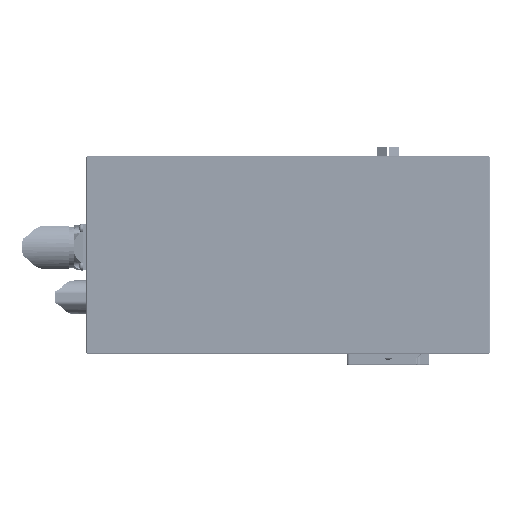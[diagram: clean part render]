
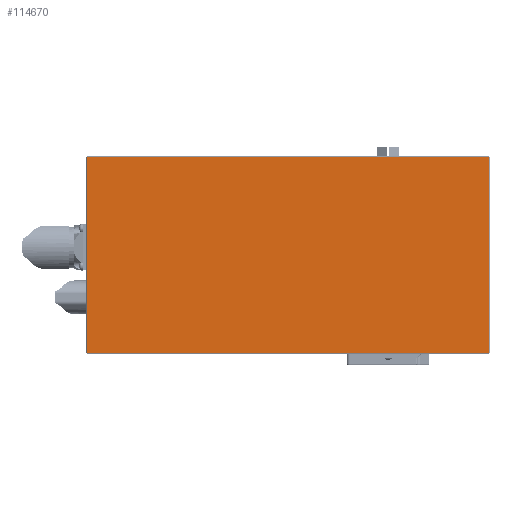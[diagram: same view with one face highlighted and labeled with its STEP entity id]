
A CAD part, top view. The second image highlights one B-rep face of the part: STEP entity #114670.
In plain terms, the highlighted planar face has unit normal (0, 0, 1).
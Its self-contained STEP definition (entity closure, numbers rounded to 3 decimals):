
#114631=CARTESIAN_POINT('',(-60.4,62.5,568.));
#114632=DIRECTION('',(0.,1.,0.));
#114633=DIRECTION('',(0.,-0.,1.));
#114634=AXIS2_PLACEMENT_3D('',#114631,#114633,#114632);
#114635=PLANE('',#114634);
#114636=CARTESIAN_POINT('',(-181.9,-59.,568.));
#114637=VERTEX_POINT('',#114636);
#114638=CARTESIAN_POINT('',(61.1,-59.,568.));
#114639=VERTEX_POINT('',#114638);
#114640=CARTESIAN_POINT('',(-181.9,-59.,568.));
#114641=DIRECTION('',(1.,0.,0.));
#114642=VECTOR('',#114641,243.);
#114643=LINE('',#114640,#114642);
#114644=EDGE_CURVE('',#114637,#114639,#114643,.T.);
#114645=ORIENTED_EDGE('E9215',*,*,#114644,.T.);
#114646=CARTESIAN_POINT('',(61.1,59.,568.));
#114647=VERTEX_POINT('',#114646);
#114648=CARTESIAN_POINT('',(61.1,-59.,568.));
#114649=DIRECTION('',(0.,1.,0.));
#114650=VECTOR('',#114649,118.);
#114651=LINE('',#114648,#114650);
#114652=EDGE_CURVE('',#114639,#114647,#114651,.T.);
#114653=ORIENTED_EDGE('E9216',*,*,#114652,.T.);
#114654=CARTESIAN_POINT('',(-181.9,59.,568.));
#114655=VERTEX_POINT('',#114654);
#114656=CARTESIAN_POINT('',(61.1,59.,568.));
#114657=DIRECTION('',(-1.,0.,0.));
#114658=VECTOR('',#114657,243.);
#114659=LINE('',#114656,#114658);
#114660=EDGE_CURVE('',#114647,#114655,#114659,.T.);
#114661=ORIENTED_EDGE('E9217',*,*,#114660,.T.);
#114662=CARTESIAN_POINT('',(-181.9,59.,568.));
#114663=DIRECTION('',(0.,-1.,0.));
#114664=VECTOR('',#114663,118.);
#114665=LINE('',#114662,#114664);
#114666=EDGE_CURVE('',#114655,#114637,#114665,.T.);
#114667=ORIENTED_EDGE('E9218',*,*,#114666,.T.);
#114668=EDGE_LOOP('',(#114645,#114653,#114661,#114667));
#114669=FACE_OUTER_BOUND('',#114668,.T.);
#114670=ADVANCED_FACE('F3560',(#114669),#114635,.T.);
